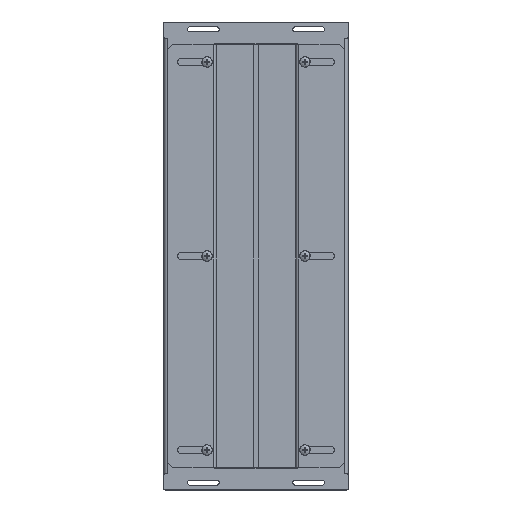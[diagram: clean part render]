
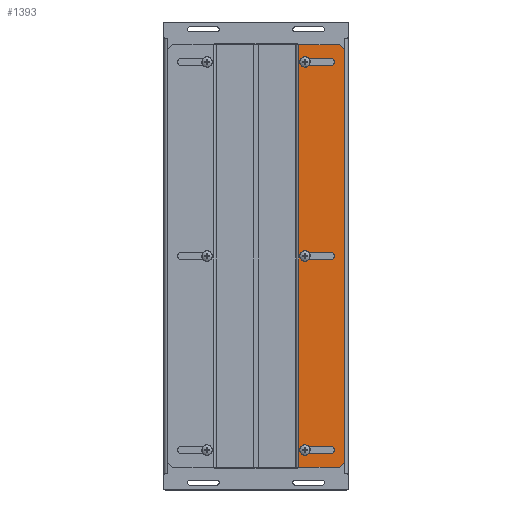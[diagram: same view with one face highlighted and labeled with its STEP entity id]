
A CAD part, top view. The second image highlights one B-rep face of the part: STEP entity #1393.
In plain terms, the highlighted planar face has unit normal (0, 0, 1).
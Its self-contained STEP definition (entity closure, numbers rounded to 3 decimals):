
#1393=ADVANCED_FACE('',(#5604,#5606,#5608,#5610),#5612,.T.);
#5604=FACE_BOUND('',#5605,.T.);
#5605=EDGE_LOOP('',(#6900,#6901,#6902,#6903,#6904,#6905));
#5606=FACE_BOUND('',#5607,.T.);
#5607=EDGE_LOOP('',(#6906,#6907,#6908,#6909));
#5608=FACE_BOUND('',#5609,.T.);
#5609=EDGE_LOOP('',(#6910,#6911,#6912,#6913));
#5610=FACE_BOUND('',#5611,.T.);
#5611=EDGE_LOOP('',(#6914,#6915,#6916,#6917));
#5612=PLANE('',#5613);
#5613=AXIS2_PLACEMENT_3D('',#5614,#5615,#5616);
#5614=CARTESIAN_POINT('',(0.,0.,1.5));
#5615=DIRECTION('',(0.,0.,1.));
#5616=DIRECTION('',(1.,0.,0.));
#6900=ORIENTED_EDGE('',*,*,#7584,.F.);
#6901=ORIENTED_EDGE('',*,*,#7585,.T.);
#6902=ORIENTED_EDGE('',*,*,#7586,.T.);
#6903=ORIENTED_EDGE('',*,*,#7587,.T.);
#6904=ORIENTED_EDGE('',*,*,#7588,.F.);
#6905=ORIENTED_EDGE('',*,*,#7589,.T.);
#6906=ORIENTED_EDGE('',*,*,#7590,.T.);
#6907=ORIENTED_EDGE('',*,*,#7591,.T.);
#6908=ORIENTED_EDGE('',*,*,#7592,.T.);
#6909=ORIENTED_EDGE('',*,*,#7593,.T.);
#6910=ORIENTED_EDGE('',*,*,#7594,.T.);
#6911=ORIENTED_EDGE('',*,*,#7595,.T.);
#6912=ORIENTED_EDGE('',*,*,#7596,.T.);
#6913=ORIENTED_EDGE('',*,*,#7597,.T.);
#6914=ORIENTED_EDGE('',*,*,#7598,.T.);
#6915=ORIENTED_EDGE('',*,*,#7599,.T.);
#6916=ORIENTED_EDGE('',*,*,#7600,.T.);
#6917=ORIENTED_EDGE('',*,*,#7601,.T.);
#7584=EDGE_CURVE('',#8554,#8555,#8556,.F.);
#7585=EDGE_CURVE('',#8554,#8557,#8558,.T.);
#7586=EDGE_CURVE('',#8557,#8559,#8560,.T.);
#7587=EDGE_CURVE('',#8559,#8561,#8562,.T.);
#7588=EDGE_CURVE('',#8563,#8561,#8564,.F.);
#7589=EDGE_CURVE('',#8563,#8555,#8565,.T.);
#7590=EDGE_CURVE('',#8566,#8567,#8568,.F.);
#7591=EDGE_CURVE('',#8567,#8569,#8570,.F.);
#7592=EDGE_CURVE('',#8569,#8571,#8572,.F.);
#7593=EDGE_CURVE('',#8571,#8566,#8573,.F.);
#7594=EDGE_CURVE('',#8574,#8575,#8576,.F.);
#7595=EDGE_CURVE('',#8575,#8577,#8578,.F.);
#7596=EDGE_CURVE('',#8577,#8579,#8580,.F.);
#7597=EDGE_CURVE('',#8579,#8574,#8581,.F.);
#7598=EDGE_CURVE('',#8582,#8583,#8584,.F.);
#7599=EDGE_CURVE('',#8583,#8585,#8586,.F.);
#7600=EDGE_CURVE('',#8585,#8587,#8588,.F.);
#7601=EDGE_CURVE('',#8587,#8582,#8589,.F.);
#8554=VERTEX_POINT('',#12482);
#8555=VERTEX_POINT('',#12483);
#8556=LINE('',#12484,#12485);
#8557=VERTEX_POINT('',#12487);
#8558=LINE('',#12488,#12489);
#8559=VERTEX_POINT('',#12491);
#8560=LINE('',#12492,#12493);
#8561=VERTEX_POINT('',#12495);
#8562=LINE('',#12496,#12497);
#8563=VERTEX_POINT('',#12499);
#8564=LINE('',#12500,#12501);
#8565=LINE('',#12503,#12504);
#8566=VERTEX_POINT('',#12506);
#8567=VERTEX_POINT('',#12507);
#8568=LINE('',#12508,#12509);
#8569=VERTEX_POINT('',#12511);
#8570=CIRCLE('',#12512,3.5);
#8571=VERTEX_POINT('',#12516);
#8572=LINE('',#12517,#12518);
#8573=CIRCLE('',#12520,3.5);
#8574=VERTEX_POINT('',#12524);
#8575=VERTEX_POINT('',#12525);
#8576=CIRCLE('',#12526,3.5);
#8577=VERTEX_POINT('',#12530);
#8578=LINE('',#12531,#12532);
#8579=VERTEX_POINT('',#12534);
#8580=CIRCLE('',#12535,3.5);
#8581=LINE('',#12539,#12540);
#8582=VERTEX_POINT('',#12542);
#8583=VERTEX_POINT('',#12543);
#8584=LINE('',#12544,#12545);
#8585=VERTEX_POINT('',#12547);
#8586=CIRCLE('',#12548,3.5);
#8587=VERTEX_POINT('',#12552);
#8588=LINE('',#12553,#12554);
#8589=CIRCLE('',#12556,3.5);
#12482=CARTESIAN_POINT('',(0.,41.,1.5));
#12483=CARTESIAN_POINT('',(5.,46.,1.5));
#12484=CARTESIAN_POINT('',(5.,46.,1.5));
#12485=VECTOR('',#12486,1.);
#12486=DIRECTION('',(-0.707,-0.707,0.));
#12487=CARTESIAN_POINT('',(0.,2.8,1.5));
#12488=CARTESIAN_POINT('',(0.,41.,1.5));
#12489=VECTOR('',#12490,1.);
#12490=DIRECTION('',(0.,-1.,0.));
#12491=CARTESIAN_POINT('',(402.,2.8,1.5));
#12492=CARTESIAN_POINT('',(0.,2.8,1.5));
#12493=VECTOR('',#12494,1.);
#12494=DIRECTION('',(1.,0.,0.));
#12495=CARTESIAN_POINT('',(402.,41.,1.5));
#12496=CARTESIAN_POINT('',(402.,2.8,1.5));
#12497=VECTOR('',#12498,1.);
#12498=DIRECTION('',(0.,1.,0.));
#12499=CARTESIAN_POINT('',(397.,46.,1.5));
#12500=CARTESIAN_POINT('',(402.,41.,1.5));
#12501=VECTOR('',#12502,1.);
#12502=DIRECTION('',(-0.707,0.707,0.));
#12503=CARTESIAN_POINT('',(397.,46.,1.5));
#12504=VECTOR('',#12505,1.);
#12505=DIRECTION('',(-1.,0.,0.));
#12506=CARTESIAN_POINT('',(20.,33.,1.5));
#12507=CARTESIAN_POINT('',(20.,8.5,1.5));
#12508=CARTESIAN_POINT('',(20.,8.5,1.5));
#12509=VECTOR('',#12510,1.);
#12510=DIRECTION('',(0.,1.,0.));
#12511=CARTESIAN_POINT('',(13.,8.5,1.5));
#12512=AXIS2_PLACEMENT_3D('',#12513,#12514,#12515);
#12513=CARTESIAN_POINT('',(16.5,8.5,1.5));
#12514=DIRECTION('',(0.,0.,1.));
#12515=DIRECTION('',(-1.,0.,0.));
#12516=CARTESIAN_POINT('',(13.,33.,1.5));
#12517=CARTESIAN_POINT('',(13.,33.,1.5));
#12518=VECTOR('',#12519,1.);
#12519=DIRECTION('',(0.,-1.,0.));
#12520=AXIS2_PLACEMENT_3D('',#12521,#12522,#12523);
#12521=CARTESIAN_POINT('',(16.5,33.,1.5));
#12522=DIRECTION('',(0.,0.,1.));
#12523=DIRECTION('',(1.,0.,0.));
#12524=CARTESIAN_POINT('',(197.5,33.,1.5));
#12525=CARTESIAN_POINT('',(204.5,33.,1.5));
#12526=AXIS2_PLACEMENT_3D('',#12527,#12528,#12529);
#12527=CARTESIAN_POINT('',(201.,33.,1.5));
#12528=DIRECTION('',(0.,0.,1.));
#12529=DIRECTION('',(1.,0.,0.));
#12530=CARTESIAN_POINT('',(204.5,8.5,1.5));
#12531=CARTESIAN_POINT('',(204.5,8.5,1.5));
#12532=VECTOR('',#12533,1.);
#12533=DIRECTION('',(0.,1.,0.));
#12534=CARTESIAN_POINT('',(197.5,8.5,1.5));
#12535=AXIS2_PLACEMENT_3D('',#12536,#12537,#12538);
#12536=CARTESIAN_POINT('',(201.,8.5,1.5));
#12537=DIRECTION('',(0.,0.,1.));
#12538=DIRECTION('',(-1.,0.,0.));
#12539=CARTESIAN_POINT('',(197.5,33.,1.5));
#12540=VECTOR('',#12541,1.);
#12541=DIRECTION('',(0.,-1.,0.));
#12542=CARTESIAN_POINT('',(382.,8.5,1.5));
#12543=CARTESIAN_POINT('',(382.,33.,1.5));
#12544=CARTESIAN_POINT('',(382.,33.,1.5));
#12545=VECTOR('',#12546,1.);
#12546=DIRECTION('',(0.,-1.,0.));
#12547=CARTESIAN_POINT('',(389.,33.,1.5));
#12548=AXIS2_PLACEMENT_3D('',#12549,#12550,#12551);
#12549=CARTESIAN_POINT('',(385.5,33.,1.5));
#12550=DIRECTION('',(0.,0.,1.));
#12551=DIRECTION('',(1.,0.,0.));
#12552=CARTESIAN_POINT('',(389.,8.5,1.5));
#12553=CARTESIAN_POINT('',(389.,8.5,1.5));
#12554=VECTOR('',#12555,1.);
#12555=DIRECTION('',(0.,1.,0.));
#12556=AXIS2_PLACEMENT_3D('',#12557,#12558,#12559);
#12557=CARTESIAN_POINT('',(385.5,8.5,1.5));
#12558=DIRECTION('',(0.,0.,1.));
#12559=DIRECTION('',(-1.,0.,0.));
